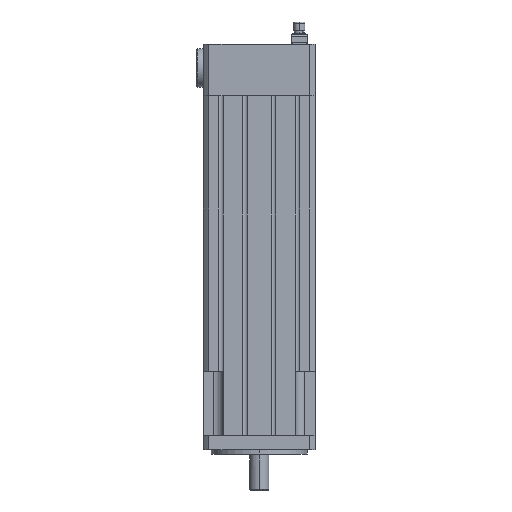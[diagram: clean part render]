
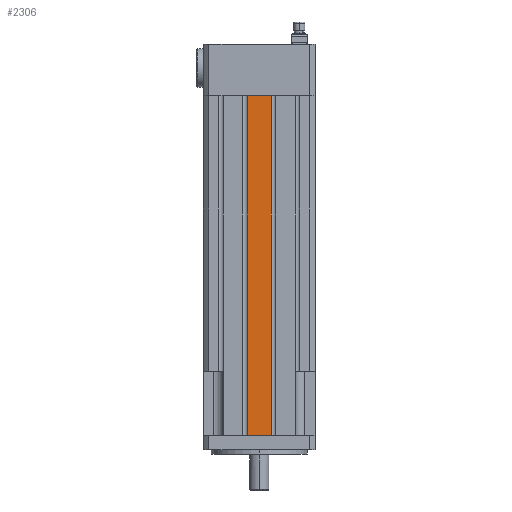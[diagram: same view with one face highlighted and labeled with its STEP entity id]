
A CAD part, left-side view. The second image highlights one B-rep face of the part: STEP entity #2306.
In plain terms, the highlighted planar face has unit normal (-1, 0, 0).
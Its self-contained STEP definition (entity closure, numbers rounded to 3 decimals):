
#113 = CARTESIAN_POINT ( 'NONE',  ( -35., -7.547, 0. ) ) ;
#565 = CARTESIAN_POINT ( 'NONE',  ( -35., -7.547, 212. ) ) ;
#619 = CARTESIAN_POINT ( 'NONE',  ( -35., -7.547, 212. ) ) ;
#637 = AXIS2_PLACEMENT_3D ( 'NONE', #12849, #10738, #3441 ) ;
#918 = VECTOR ( 'NONE', #4030, 1000. ) ;
#1303 = ORIENTED_EDGE ( 'NONE', *, *, #7117, .T. ) ;
#2306 = ADVANCED_FACE ( 'NONE', ( #5612 ), #7563, .F. ) ;
#2946 = DIRECTION ( 'NONE',  ( 0., 0., -1. ) ) ;
#3239 = VERTEX_POINT ( 'NONE', #9224 ) ;
#3282 = CARTESIAN_POINT ( 'NONE',  ( -35., 7.547, 212. ) ) ;
#3441 = DIRECTION ( 'NONE',  ( 0., 1., 0. ) ) ;
#4030 = DIRECTION ( 'NONE',  ( 0., 0., -1. ) ) ;
#5372 = CARTESIAN_POINT ( 'NONE',  ( -35., -7.547, 0. ) ) ;
#5612 = FACE_OUTER_BOUND ( 'NONE', #8021, .T. ) ;
#5768 = ORIENTED_EDGE ( 'NONE', *, *, #12661, .T. ) ;
#6117 = LINE ( 'NONE', #11320, #918 ) ;
#6218 = EDGE_CURVE ( 'NONE', #8696, #12870, #6117, .T. ) ;
#6374 = LINE ( 'NONE', #565, #11759 ) ;
#6982 = VECTOR ( 'NONE', #2946, 1000. ) ;
#7001 = LINE ( 'NONE', #8207, #6982 ) ;
#7117 = EDGE_CURVE ( 'NONE', #3239, #12870, #11599, .T. ) ;
#7337 = DIRECTION ( 'NONE',  ( 0., -1., 0. ) ) ;
#7563 = PLANE ( 'NONE',  #637 ) ;
#8021 = EDGE_LOOP ( 'NONE', ( #1303, #11892, #12630, #5768 ) ) ;
#8207 = CARTESIAN_POINT ( 'NONE',  ( -35., 7.547, 212. ) ) ;
#8696 = VERTEX_POINT ( 'NONE', #619 ) ;
#9224 = CARTESIAN_POINT ( 'NONE',  ( -35., 7.547, 0. ) ) ;
#10738 = DIRECTION ( 'NONE',  ( 1., 0., 0. ) ) ;
#11320 = CARTESIAN_POINT ( 'NONE',  ( -35., -7.547, 212. ) ) ;
#11599 = LINE ( 'NONE', #113, #11764 ) ;
#11759 = VECTOR ( 'NONE', #11907, 1000. ) ;
#11764 = VECTOR ( 'NONE', #7337, 1000. ) ;
#11892 = ORIENTED_EDGE ( 'NONE', *, *, #6218, .F. ) ;
#11907 = DIRECTION ( 'NONE',  ( 0., -1., 0. ) ) ;
#12465 = VERTEX_POINT ( 'NONE', #3282 ) ;
#12630 = ORIENTED_EDGE ( 'NONE', *, *, #13301, .F. ) ;
#12661 = EDGE_CURVE ( 'NONE', #12465, #3239, #7001, .T. ) ;
#12849 = CARTESIAN_POINT ( 'NONE',  ( -35., -7.547, 212. ) ) ;
#12870 = VERTEX_POINT ( 'NONE', #5372 ) ;
#13301 = EDGE_CURVE ( 'NONE', #12465, #8696, #6374, .T. ) ;
